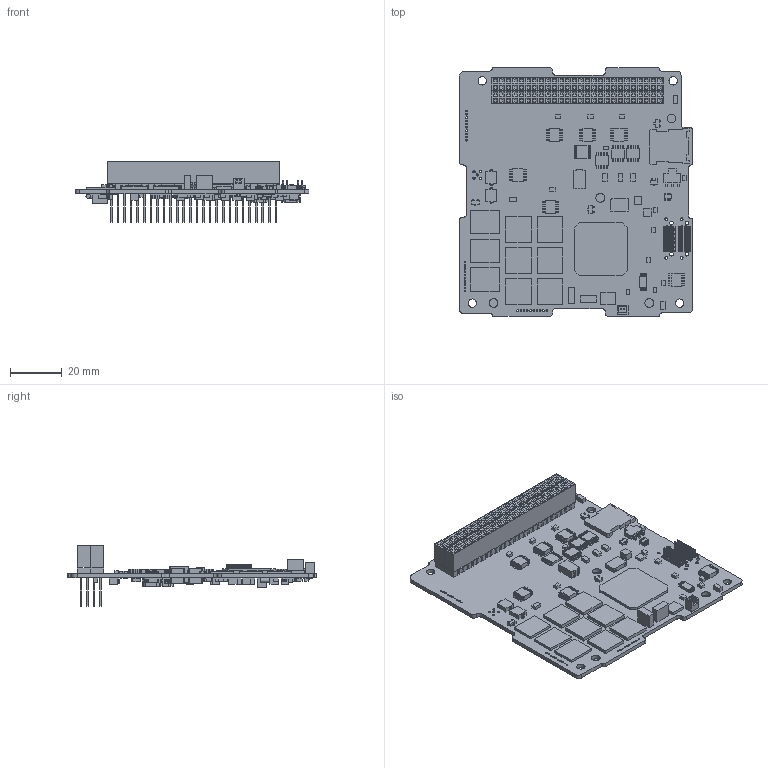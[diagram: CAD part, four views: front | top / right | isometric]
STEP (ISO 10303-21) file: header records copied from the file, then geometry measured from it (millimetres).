
FILE_DESCRIPTION (( 'STEP AP214' ), '1' );
FILE_NAME ('25-02927 RevJ Assembly_defeature.STEP', '2022-10-19T09:38:15', ( '' ), ( '' ), 'SwSTEP 2.0', 'SolidWorks 2021', '' );
FILE_SCHEMA (( 'AUTOMOTIVE_DESIGN' ));
Length unit declared in the file: millimetre
Products named in the file (1): 25-02927 RevJ Assembly_defeature
Bounding box: 90.17 x 95.89 x 23.24 mm (x, y, z)
Volume: 24348.5 mm3; surface area: 39402.5 mm2
Topology: 242 solids, 242 shells, 8149 faces, 22784 edges, 14912 vertices
Faces by surface type: plane 7304, cylinder 772, bspline 73
Entity records: 260525 total; most frequent: CARTESIAN_POINT 46834, ORIENTED_EDGE 45568, DIRECTION 40323, EDGE_CURVE 22784, LINE 21081, VECTOR 21081, VERTEX_POINT 14912, AXIS2_PLACEMENT_3D 9621
